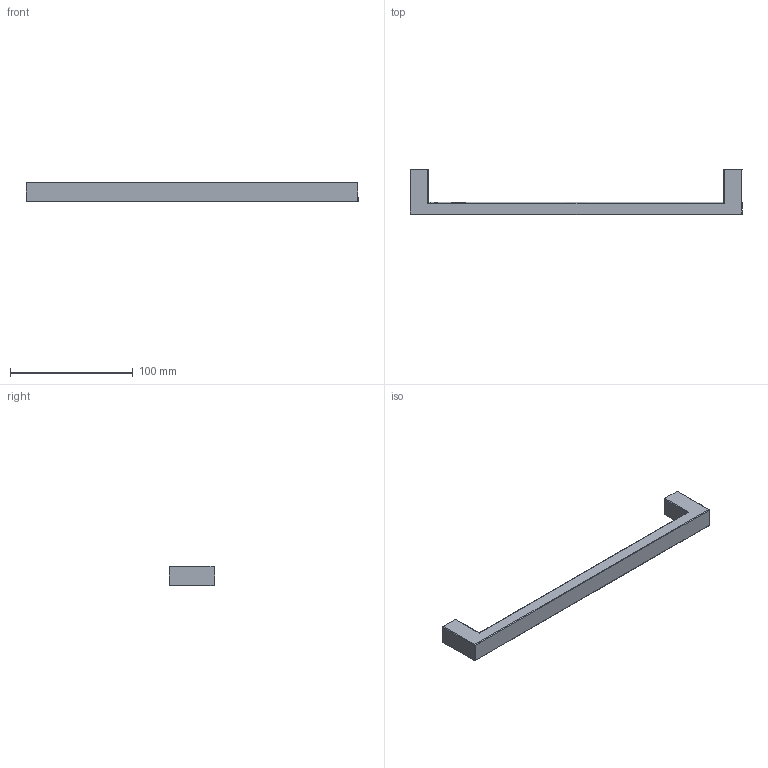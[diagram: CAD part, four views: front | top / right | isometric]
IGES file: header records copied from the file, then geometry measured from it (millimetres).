
Start section: Data from Parasolid IGES Translator 15.0.47, Copyright(c) 2006 Siemens P LM Software. All Rights Reserved.
Global section: file name: 9113248.igs; native system:  By UGS Corp.; preprocessor: XPlus GENERIC/IGES 3.0; author: Noname; organization: Noname; date: 20140122.181700; units: millimetre
Bounding box: 271 x 37 x 16.01 mm (x, y, z)
Surface area: 17673 mm2 (no closed solid volume)
Topology: 0 solids, 0 shells, 34 faces, 164 edges, 162 vertices
Faces by surface type: revolution 18, extrusion 16
